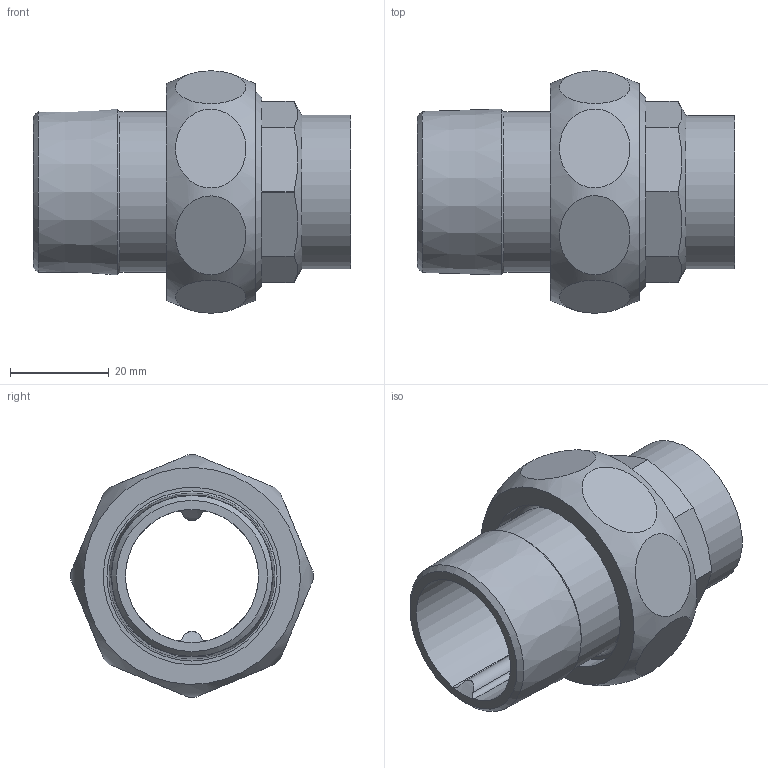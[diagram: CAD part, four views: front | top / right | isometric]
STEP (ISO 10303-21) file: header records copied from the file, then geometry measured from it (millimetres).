
FILE_DESCRIPTION((''),'2;1');
FILE_NAME('\\Lg50001\groups\SANHA Legnica\Engineering\Public\RYSUNKI\SANHA POLSKA\4341g\step\14341g_28-1(1).stp','2010-06-10T13:40:21',('pajchrowski'),(''),'Autodesk Inventor 2009','Autodesk Inventor 2009','');
FILE_SCHEMA(('AUTOMOTIVE_DESIGN { 1 0 10303 214 1 1 1 1 }'));
Length unit declared in the file: millimetre
Products named in the file (4): 14341g_28-1(1); 14382_1-114(3); 14374_114(1); 14380_28-114(2)
Assembly tree (3 placements, depth 2):
  14341g_28-1(1)
    14382_1-114(3)
    14374_114(1)
    14380_28-114(2)
Bounding box: 64.4 x 49.15 x 49.15 mm (x, y, z)
Volume: 33086.9 mm3; surface area: 21140.3 mm2
Topology: 3 solids, 3 shells, 66 faces, 140 edges, 91 vertices
Faces by surface type: plane 26, cylinder 25, cone 12, bspline 2, torus 1
Full cylindrical faces by diameter (mm): 27 x1, 28 x1, 31.2 x1, 32.5 x1, 35.5 x1, 36 x1, 38.5 x1, 38.952 x1, 41.91 x1
Entity records: 3297 total; most frequent: CARTESIAN_POINT 1875, DIRECTION 278, ORIENTED_EDGE 232, AXIS2_PLACEMENT_3D 123, EDGE_CURVE 116, EDGE_LOOP 104, VERTEX_POINT 88, FACE_OUTER_BOUND 66
